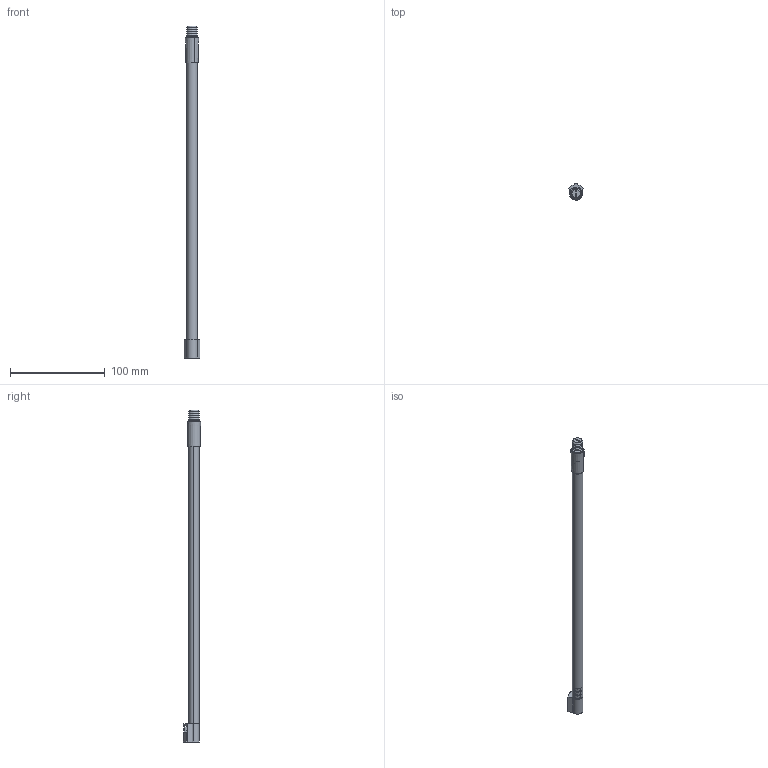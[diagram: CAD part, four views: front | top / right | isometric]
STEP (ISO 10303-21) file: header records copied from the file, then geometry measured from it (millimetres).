
FILE_DESCRIPTION (( 'STEP AP203' ), '1' );
FILE_NAME ('StrongBox ND reling tyèka, 350mm_246703 a 246710_3D.STEP', '2020-10-13T11:56:45', ( '' ), ( '' ), 'SwSTEP 2.0', 'SolidWorks 2019', '' );
FILE_SCHEMA (( 'CONFIG_CONTROL_DESIGN' ));
Length unit declared in the file: millimetre
Products named in the file (6): 246703_01; 246701_02; 246701_01; 246701_04; StrongBox ND reling tyèka, 350mm_246703 a 246710_3D; 246701_03
Assembly tree (5 placements, depth 2):
  StrongBox ND reling tyèka, 350mm_246703 a 246710_3D
    246703_01
    246701_01
    246701_03
    246701_04
    246701_02
Bounding box: 16 x 18.09 x 350 mm (x, y, z)
Volume: 18274.4 mm3; surface area: 27174.3 mm2
Topology: 6 solids, 6 shells, 476 faces, 1201 edges, 741 vertices
Faces by surface type: cone 275, plane 137, cylinder 54, torus 10
Entity records: 15102 total; most frequent: CARTESIAN_POINT 3142, DIRECTION 2408, ORIENTED_EDGE 2402, EDGE_CURVE 1201, AXIS2_PLACEMENT_3D 951, VERTEX_POINT 741, VECTOR 506, LINE 506
